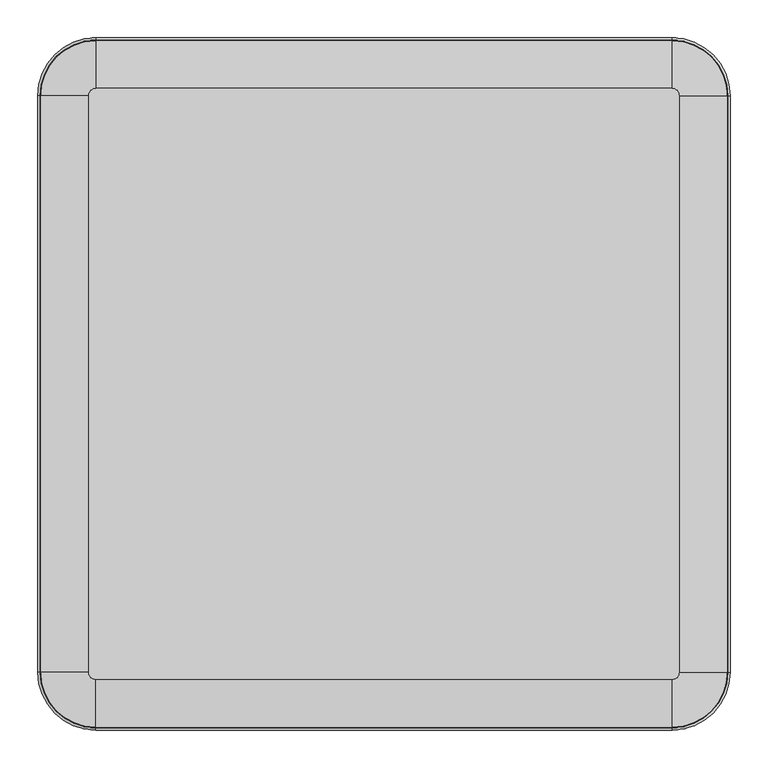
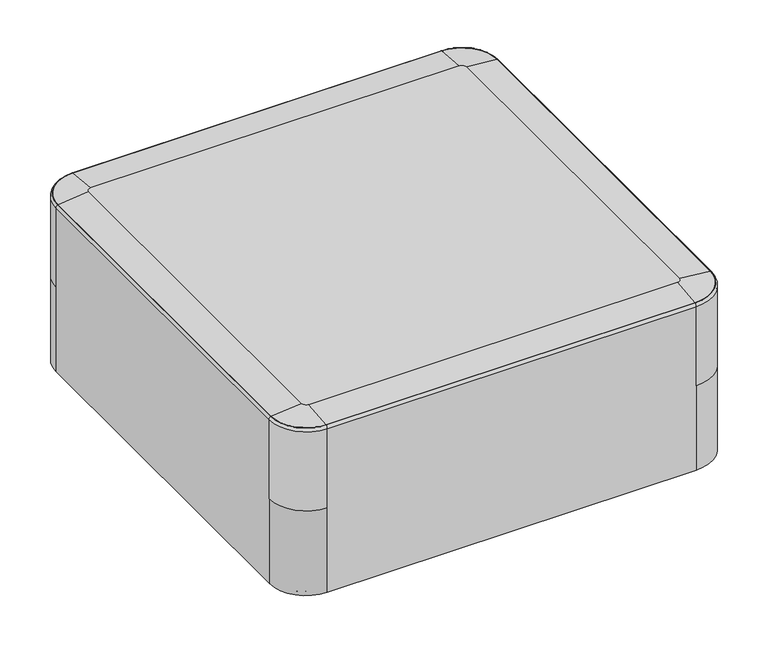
"""IFC4 building model written with IfcOpenShell, lengths in millimetres: furniture geometry, Indiana-Otty-Ottoman_Square : 840-3615SO."""

from ifc_helpers import new_model, si_unit, point, frame, origin, place, context, project, spatial, polyline, circle_curve, ellipse_curve, trimmed, source, transform, mapped, element, save
from ifc_brep_helpers import plane_surface, cylinder_surface, revolved_surface, advanced_brep


def furniture_132e7c60(model_context):
    return source(origin(), model_context, "Body", "AdvancedBrep", [
        advanced_brep(
        [(0.0, -403.225, 19.8875), (0.0, -425.725, 19.8875), (0.0, -380.725, 19.8875), (0.0, -425.2765082, 4.2458827), (0.0, -381.1734918, 4.2458827), (0.0, -420.7913665, -0.1125), (0.0, -385.6586335, -0.1125), (0.0, -413.4926178, -0.1125), (0.0, -392.9573822, -0.1125), (0.0, -409.5981417, 3.9179615), (0.0, -396.8518583, 3.9179615), (0.0, -403.225, 3.9179615)],
        [
            (0, 1),
            (1, 2, circle_curve(frame((0.0, -403.225, 19.8875), z_axis=(0.0, 0.0, 1.0), x_axis=(0.0, -1.0, 0.0)), 22.5)),
            (2, 0),
            (2, 1, circle_curve(frame((0.0, -403.225, 19.8875), z_axis=(0.0, 0.0, 1.0), x_axis=(0.0, -1.0, 0.0)), 22.5)),
            (1, 3),
            (3, 4, circle_curve(frame((0.0, -403.225, 4.2458827), z_axis=(0.0, 0.0, 1.0), x_axis=(0.0, -1.0, 0.0)), 22.0515082)),
            (4, 2),
            (4, 3, circle_curve(frame((0.0, -403.225, 4.2458827), z_axis=(0.0, 0.0, 1.0), x_axis=(0.0, -1.0, 0.0)), 22.0515082)),
            (3, 5, circle_curve(frame((0.0, -420.7913665, 4.3744851), z_axis=(1.0, 0.0, 0.0), x_axis=(0.0, 1.0, 0.0)), 4.4869851)),
            (5, 6, circle_curve(frame((0.0, -403.225, -0.1125), z_axis=(0.0, 0.0, 1.0), x_axis=(0.0, -1.0, 0.0)), 17.5663665)),
            (6, 4, circle_curve(frame((0.0, -385.6586335, 4.3744851), z_axis=(1.0, 0.0, 0.0), x_axis=(0.0, -1.0, 0.0)), 4.4869851)),
            (6, 5, circle_curve(frame((0.0, -403.225, -0.1125), z_axis=(0.0, 0.0, 1.0), x_axis=(0.0, -1.0, 0.0)), 17.5663665)),
            (5, 7),
            (7, 8, circle_curve(frame((0.0, -403.225, -0.1125), z_axis=(0.0, 0.0, 1.0), x_axis=(0.0, -1.0, 0.0)), 10.2676178)),
            (8, 6),
            (8, 7, circle_curve(frame((0.0, -403.225, -0.1125), z_axis=(0.0, 0.0, 1.0), x_axis=(0.0, -1.0, 0.0)), 10.2676178)),
            (7, 9, circle_curve(frame((0.0, -413.4926178, 3.7842702), z_axis=(1.0, 0.0, 0.0), x_axis=(0.0, 1.0, 0.0)), 3.8967702)),
            (9, 10, circle_curve(frame((0.0, -403.225, 3.9179615), z_axis=(0.0, 0.0, 1.0), x_axis=(0.0, -1.0, 0.0)), 6.3731417)),
            (10, 8, circle_curve(frame((0.0, -392.9573822, 3.7842702), z_axis=(1.0, 0.0, 0.0), x_axis=(0.0, -1.0, 0.0)), 3.8967702)),
            (10, 9, circle_curve(frame((0.0, -403.225, 3.9179615), z_axis=(0.0, 0.0, 1.0), x_axis=(0.0, -1.0, 0.0)), 6.3731417)),
            (9, 11),
            (11, 10),
        ],
        [
            plane_surface(frame((0.0, -403.225, 19.8875), z_axis=(0.0, 0.0, 1.0), x_axis=(0.0, -1.0, 0.0))),
            revolved_surface(polyline([(0.0, -425.2765082, 4.2458827), (0.0, -425.725, 19.8875)]), (0.0, -403.225, 31.0803862), (0.0, 0.0, 1.0)),
            revolved_surface(trimmed(ellipse_curve(frame((0.0, -420.7913665, 4.3744851), z_axis=(-1.0, 0.0, 0.0), x_axis=(0.0, 1.0, 0.0)), 4.4869851, 4.4869851), [point((0.0, -420.7913665, -0.1125))], [point((0.0, -425.2765082, 4.2458827))], True, "CARTESIAN"), (0.0, -403.225, 31.0803862), (0.0, 0.0, 1.0)),
            plane_surface(frame((0.0, -403.225, -0.1125), z_axis=(0.0, 0.0, -1.0), x_axis=(0.0, -1.0, 0.0))),
            revolved_surface(trimmed(ellipse_curve(frame((0.0, -413.4926178, 3.7842702), z_axis=(-1.0, 0.0, 0.0), x_axis=(0.0, 1.0, 0.0)), 3.8967702, 3.8967702), [point((0.0, -409.5981417, 3.9179615))], [point((0.0, -413.4926178, -0.1125))], True, "CARTESIAN"), (0.0, -403.225, 31.0803862), (0.0, 0.0, 1.0)),
            plane_surface(frame((0.0, -403.225, 3.9179615), z_axis=(0.0, 0.0, -1.0), x_axis=(0.0, -1.0, 0.0))),
        ],
        [
            (0, [[1, 2, 3]]),
            (0, [[-3, 4, -1]]),
            (1, [[-2, 5, 6, 7]]),
            (1, [[-4, -7, 8, -5]]),
            (2, [[-6, 9, 10, 11]]),
            (2, [[-8, -11, 12, -9]]),
            (3, [[-10, 13, 14, 15]]),
            (3, [[-12, -15, 16, -13]]),
            (4, [[-14, 17, 18, 19]]),
            (4, [[-16, -19, 20, -17]]),
            (5, [[-18, 21, 22]]),
            (5, [[-20, -22, -21]]),
        ],
    ),
        advanced_brep(
        [(0.0, 403.225, 19.8875), (0.0, 380.725, 19.8875), (0.0, 425.725, 19.8875), (0.0, 381.1734918, 4.2458827), (0.0, 425.2765082, 4.2458827), (0.0, 385.6586335, -0.1125), (0.0, 420.7913665, -0.1125), (0.0, 392.9573822, -0.1125), (0.0, 413.4926178, -0.1125), (0.0, 396.8518583, 3.9179615), (0.0, 409.5981417, 3.9179615), (0.0, 403.225, 3.9179615)],
        [
            (0, 1),
            (1, 2, circle_curve(frame((0.0, 403.225, 19.8875), z_axis=(0.0, 0.0, 1.0), x_axis=(0.0, -1.0, 0.0)), 22.5)),
            (2, 0),
            (2, 1, circle_curve(frame((0.0, 403.225, 19.8875), z_axis=(0.0, 0.0, 1.0), x_axis=(0.0, -1.0, 0.0)), 22.5)),
            (1, 3),
            (3, 4, circle_curve(frame((0.0, 403.225, 4.2458827), z_axis=(0.0, 0.0, 1.0), x_axis=(0.0, -1.0, 0.0)), 22.0515082)),
            (4, 2),
            (4, 3, circle_curve(frame((0.0, 403.225, 4.2458827), z_axis=(0.0, 0.0, 1.0), x_axis=(0.0, -1.0, 0.0)), 22.0515082)),
            (3, 5, circle_curve(frame((0.0, 385.6586335, 4.3744851), z_axis=(1.0, 0.0, 0.0), x_axis=(0.0, 1.0, 0.0)), 4.4869851)),
            (5, 6, circle_curve(frame((0.0, 403.225, -0.1125), z_axis=(0.0, 0.0, 1.0), x_axis=(0.0, -1.0, 0.0)), 17.5663665)),
            (6, 4, circle_curve(frame((0.0, 420.7913665, 4.3744851), z_axis=(1.0, 0.0, 0.0), x_axis=(0.0, -1.0, 0.0)), 4.4869851)),
            (6, 5, circle_curve(frame((0.0, 403.225, -0.1125), z_axis=(0.0, 0.0, 1.0), x_axis=(0.0, -1.0, 0.0)), 17.5663665)),
            (5, 7),
            (7, 8, circle_curve(frame((0.0, 403.225, -0.1125), z_axis=(0.0, 0.0, 1.0), x_axis=(0.0, -1.0, 0.0)), 10.2676178)),
            (8, 6),
            (8, 7, circle_curve(frame((0.0, 403.225, -0.1125), z_axis=(0.0, 0.0, 1.0), x_axis=(0.0, -1.0, 0.0)), 10.2676178)),
            (7, 9, circle_curve(frame((0.0, 392.9573822, 3.7842702), z_axis=(1.0, 0.0, 0.0), x_axis=(0.0, 1.0, 0.0)), 3.8967702)),
            (9, 10, circle_curve(frame((0.0, 403.225, 3.9179615), z_axis=(0.0, 0.0, 1.0), x_axis=(0.0, -1.0, 0.0)), 6.3731417)),
            (10, 8, circle_curve(frame((0.0, 413.4926178, 3.7842702), z_axis=(1.0, 0.0, 0.0), x_axis=(0.0, -1.0, 0.0)), 3.8967702)),
            (10, 9, circle_curve(frame((0.0, 403.225, 3.9179615), z_axis=(0.0, 0.0, 1.0), x_axis=(0.0, -1.0, 0.0)), 6.3731417)),
            (9, 11),
            (11, 10),
        ],
        [
            plane_surface(frame((0.0, 403.225, 19.8875), z_axis=(0.0, 0.0, 1.0), x_axis=(0.0, -1.0, 0.0))),
            revolved_surface(polyline([(0.0, 381.1734918, 4.2458827), (0.0, 380.725, 19.8875)]), (0.0, 403.225, 31.0803862), (0.0, 0.0, 1.0)),
            revolved_surface(trimmed(ellipse_curve(frame((0.0, 385.6586335, 4.3744851), z_axis=(-1.0, 0.0, 0.0), x_axis=(0.0, 1.0, 0.0)), 4.4869851, 4.4869851), [point((0.0, 385.6586335, -0.1125))], [point((0.0, 381.1734918, 4.2458827))], True, "CARTESIAN"), (0.0, 403.225, 31.0803862), (0.0, 0.0, 1.0)),
            plane_surface(frame((0.0, 403.225, -0.1125), z_axis=(0.0, 0.0, -1.0), x_axis=(0.0, -1.0, 0.0))),
            revolved_surface(trimmed(ellipse_curve(frame((0.0, 392.9573822, 3.7842702), z_axis=(-1.0, 0.0, 0.0), x_axis=(0.0, 1.0, 0.0)), 3.8967702, 3.8967702), [point((0.0, 396.8518583, 3.9179615))], [point((0.0, 392.9573822, -0.1125))], True, "CARTESIAN"), (0.0, 403.225, 31.0803862), (0.0, 0.0, 1.0)),
            plane_surface(frame((0.0, 403.225, 3.9179615), z_axis=(0.0, 0.0, -1.0), x_axis=(0.0, -1.0, 0.0))),
        ],
        [
            (0, [[1, 2, 3]]),
            (0, [[-3, 4, -1]]),
            (1, [[-2, 5, 6, 7]]),
            (1, [[-4, -7, 8, -5]]),
            (2, [[-6, 9, 10, 11]]),
            (2, [[-8, -11, 12, -9]]),
            (3, [[-10, 13, 14, 15]]),
            (3, [[-12, -15, 16, -13]]),
            (4, [[-14, 17, 18, 19]]),
            (4, [[-16, -19, 20, -17]]),
            (5, [[-18, 21, 22]]),
            (5, [[-20, -22, -21]]),
        ],
    ),
        advanced_brep(
        [(403.225, -403.225, 19.8875), (403.225, -425.725, 19.8875), (403.225, -380.725, 19.8875), (403.225, -425.2765082, 4.2458827), (403.225, -381.1734918, 4.2458827), (403.225, -420.7913665, -0.1125), (403.225, -385.6586335, -0.1125), (403.225, -413.4926178, -0.1125), (403.225, -392.9573822, -0.1125), (403.225, -409.5981417, 3.9179615), (403.225, -396.8518583, 3.9179615), (403.225, -403.225, 3.9179615)],
        [
            (0, 1),
            (1, 2, circle_curve(frame((403.225, -403.225, 19.8875), z_axis=(0.0, 0.0, 1.0), x_axis=(0.0, -1.0, 0.0)), 22.5)),
            (2, 0),
            (2, 1, circle_curve(frame((403.225, -403.225, 19.8875), z_axis=(0.0, 0.0, 1.0), x_axis=(0.0, -1.0, 0.0)), 22.5)),
            (1, 3),
            (3, 4, circle_curve(frame((403.225, -403.225, 4.2458827), z_axis=(0.0, 0.0, 1.0), x_axis=(0.0, -1.0, 0.0)), 22.0515082)),
            (4, 2),
            (4, 3, circle_curve(frame((403.225, -403.225, 4.2458827), z_axis=(0.0, 0.0, 1.0), x_axis=(0.0, -1.0, 0.0)), 22.0515082)),
            (3, 5, circle_curve(frame((403.225, -420.7913665, 4.3744851), z_axis=(1.0, 0.0, 0.0), x_axis=(0.0, 1.0, 0.0)), 4.4869851)),
            (5, 6, circle_curve(frame((403.225, -403.225, -0.1125), z_axis=(0.0, 0.0, 1.0), x_axis=(0.0, -1.0, 0.0)), 17.5663665)),
            (6, 4, circle_curve(frame((403.225, -385.6586335, 4.3744851), z_axis=(1.0, 0.0, 0.0), x_axis=(0.0, -1.0, 0.0)), 4.4869851)),
            (6, 5, circle_curve(frame((403.225, -403.225, -0.1125), z_axis=(0.0, 0.0, 1.0), x_axis=(0.0, -1.0, 0.0)), 17.5663665)),
            (5, 7),
            (7, 8, circle_curve(frame((403.225, -403.225, -0.1125), z_axis=(0.0, 0.0, 1.0), x_axis=(0.0, -1.0, 0.0)), 10.2676178)),
            (8, 6),
            (8, 7, circle_curve(frame((403.225, -403.225, -0.1125), z_axis=(0.0, 0.0, 1.0), x_axis=(0.0, -1.0, 0.0)), 10.2676178)),
            (7, 9, circle_curve(frame((403.225, -413.4926178, 3.7842702), z_axis=(1.0, 0.0, 0.0), x_axis=(0.0, 1.0, 0.0)), 3.8967702)),
            (9, 10, circle_curve(frame((403.225, -403.225, 3.9179615), z_axis=(0.0, 0.0, 1.0), x_axis=(0.0, -1.0, 0.0)), 6.3731417)),
            (10, 8, circle_curve(frame((403.225, -392.9573822, 3.7842702), z_axis=(1.0, 0.0, 0.0), x_axis=(0.0, -1.0, 0.0)), 3.8967702)),
            (10, 9, circle_curve(frame((403.225, -403.225, 3.9179615), z_axis=(0.0, 0.0, 1.0), x_axis=(0.0, -1.0, 0.0)), 6.3731417)),
            (9, 11),
            (11, 10),
        ],
        [
            plane_surface(frame((403.225, -403.225, 19.8875), z_axis=(0.0, 0.0, 1.0), x_axis=(0.0, -1.0, 0.0))),
            revolved_surface(polyline([(403.225, -425.2765082, 4.2458827), (403.225, -425.725, 19.8875)]), (403.225, -403.225, 31.0803862), (0.0, 0.0, 1.0)),
            revolved_surface(trimmed(ellipse_curve(frame((403.225, -420.7913665, 4.3744851), z_axis=(-1.0, 0.0, 0.0), x_axis=(0.0, 1.0, 0.0)), 4.4869851, 4.4869851), [point((403.225, -420.7913665, -0.1125))], [point((403.225, -425.2765082, 4.2458827))], True, "CARTESIAN"), (403.225, -403.225, 31.0803862), (0.0, 0.0, 1.0)),
            plane_surface(frame((403.225, -403.225, -0.1125), z_axis=(0.0, 0.0, -1.0), x_axis=(0.0, -1.0, 0.0))),
            revolved_surface(trimmed(ellipse_curve(frame((403.225, -413.4926178, 3.7842702), z_axis=(-1.0, 0.0, 0.0), x_axis=(0.0, 1.0, 0.0)), 3.8967702, 3.8967702), [point((403.225, -409.5981417, 3.9179615))], [point((403.225, -413.4926178, -0.1125))], True, "CARTESIAN"), (403.225, -403.225, 31.0803862), (0.0, 0.0, 1.0)),
            plane_surface(frame((403.225, -403.225, 3.9179615), z_axis=(0.0, 0.0, -1.0), x_axis=(0.0, -1.0, 0.0))),
        ],
        [
            (0, [[1, 2, 3]]),
            (0, [[-3, 4, -1]]),
            (1, [[-2, 5, 6, 7]]),
            (1, [[-4, -7, 8, -5]]),
            (2, [[-6, 9, 10, 11]]),
            (2, [[-8, -11, 12, -9]]),
            (3, [[-10, 13, 14, 15]]),
            (3, [[-12, -15, 16, -13]]),
            (4, [[-14, 17, 18, 19]]),
            (4, [[-16, -19, 20, -17]]),
            (5, [[-18, 21, 22]]),
            (5, [[-20, -22, -21]]),
        ],
    ),
        advanced_brep(
        [(403.225, 403.225, 19.8875), (403.225, 380.725, 19.8875), (403.225, 425.725, 19.8875), (403.225, 381.1734918, 4.2458827), (403.225, 425.2765082, 4.2458827), (403.225, 385.6586335, -0.1125), (403.225, 420.7913665, -0.1125), (403.225, 392.9573822, -0.1125), (403.225, 413.4926178, -0.1125), (403.225, 396.8518583, 3.9179615), (403.225, 409.5981417, 3.9179615), (403.225, 403.225, 3.9179615)],
        [
            (0, 1),
            (1, 2, circle_curve(frame((403.225, 403.225, 19.8875), z_axis=(0.0, 0.0, 1.0), x_axis=(0.0, -1.0, 0.0)), 22.5)),
            (2, 0),
            (2, 1, circle_curve(frame((403.225, 403.225, 19.8875), z_axis=(0.0, 0.0, 1.0), x_axis=(0.0, -1.0, 0.0)), 22.5)),
            (1, 3),
            (3, 4, circle_curve(frame((403.225, 403.225, 4.2458827), z_axis=(0.0, 0.0, 1.0), x_axis=(0.0, -1.0, 0.0)), 22.0515082)),
            (4, 2),
            (4, 3, circle_curve(frame((403.225, 403.225, 4.2458827), z_axis=(0.0, 0.0, 1.0), x_axis=(0.0, -1.0, 0.0)), 22.0515082)),
            (3, 5, circle_curve(frame((403.225, 385.6586335, 4.3744851), z_axis=(1.0, 0.0, 0.0), x_axis=(0.0, 1.0, 0.0)), 4.4869851)),
            (5, 6, circle_curve(frame((403.225, 403.225, -0.1125), z_axis=(0.0, 0.0, 1.0), x_axis=(0.0, -1.0, 0.0)), 17.5663665)),
            (6, 4, circle_curve(frame((403.225, 420.7913665, 4.3744851), z_axis=(1.0, 0.0, 0.0), x_axis=(0.0, -1.0, 0.0)), 4.4869851)),
            (6, 5, circle_curve(frame((403.225, 403.225, -0.1125), z_axis=(0.0, 0.0, 1.0), x_axis=(0.0, -1.0, 0.0)), 17.5663665)),
            (5, 7),
            (7, 8, circle_curve(frame((403.225, 403.225, -0.1125), z_axis=(0.0, 0.0, 1.0), x_axis=(0.0, -1.0, 0.0)), 10.2676178)),
            (8, 6),
            (8, 7, circle_curve(frame((403.225, 403.225, -0.1125), z_axis=(0.0, 0.0, 1.0), x_axis=(0.0, -1.0, 0.0)), 10.2676178)),
            (7, 9, circle_curve(frame((403.225, 392.9573822, 3.7842702), z_axis=(1.0, 0.0, 0.0), x_axis=(0.0, 1.0, 0.0)), 3.8967702)),
            (9, 10, circle_curve(frame((403.225, 403.225, 3.9179615), z_axis=(0.0, 0.0, 1.0), x_axis=(0.0, -1.0, 0.0)), 6.3731417)),
            (10, 8, circle_curve(frame((403.225, 413.4926178, 3.7842702), z_axis=(1.0, 0.0, 0.0), x_axis=(0.0, -1.0, 0.0)), 3.8967702)),
            (10, 9, circle_curve(frame((403.225, 403.225, 3.9179615), z_axis=(0.0, 0.0, 1.0), x_axis=(0.0, -1.0, 0.0)), 6.3731417)),
            (9, 11),
            (11, 10),
        ],
        [
            plane_surface(frame((403.225, 403.225, 19.8875), z_axis=(0.0, 0.0, 1.0), x_axis=(0.0, -1.0, 0.0))),
            revolved_surface(polyline([(403.225, 381.1734918, 4.2458827), (403.225, 380.725, 19.8875)]), (403.225, 403.225, 31.0803862), (0.0, 0.0, 1.0)),
            revolved_surface(trimmed(ellipse_curve(frame((403.225, 385.6586335, 4.3744851), z_axis=(-1.0, 0.0, 0.0), x_axis=(0.0, 1.0, 0.0)), 4.4869851, 4.4869851), [point((403.225, 385.6586335, -0.1125))], [point((403.225, 381.1734918, 4.2458827))], True, "CARTESIAN"), (403.225, 403.225, 31.0803862), (0.0, 0.0, 1.0)),
            plane_surface(frame((403.225, 403.225, -0.1125), z_axis=(0.0, 0.0, -1.0), x_axis=(0.0, -1.0, 0.0))),
            revolved_surface(trimmed(ellipse_curve(frame((403.225, 392.9573822, 3.7842702), z_axis=(-1.0, 0.0, 0.0), x_axis=(0.0, 1.0, 0.0)), 3.8967702, 3.8967702), [point((403.225, 396.8518583, 3.9179615))], [point((403.225, 392.9573822, -0.1125))], True, "CARTESIAN"), (403.225, 403.225, 31.0803862), (0.0, 0.0, 1.0)),
            plane_surface(frame((403.225, 403.225, 3.9179615), z_axis=(0.0, 0.0, -1.0), x_axis=(0.0, -1.0, 0.0))),
        ],
        [
            (0, [[1, 2, 3]]),
            (0, [[-3, 4, -1]]),
            (1, [[-2, 5, 6, 7]]),
            (1, [[-4, -7, 8, -5]]),
            (2, [[-6, 9, 10, 11]]),
            (2, [[-8, -11, 12, -9]]),
            (3, [[-10, 13, 14, 15]]),
            (3, [[-12, -15, 16, -13]]),
            (4, [[-14, 17, 18, 19]]),
            (4, [[-16, -19, 20, -17]]),
            (5, [[-18, 21, 22]]),
            (5, [[-20, -22, -21]]),
        ],
    ),
        advanced_brep(
        [(-403.225, -403.225, 19.8875), (-403.225, -425.725, 19.8875), (-403.225, -380.725, 19.8875), (-403.225, -425.2765082, 4.2458827), (-403.225, -381.1734918, 4.2458827), (-403.225, -420.7913665, -0.1125), (-403.225, -385.6586335, -0.1125), (-403.225, -413.4926178, -0.1125), (-403.225, -392.9573822, -0.1125), (-403.225, -409.5981417, 3.9179615), (-403.225, -396.8518583, 3.9179615), (-403.225, -403.225, 3.9179615)],
        [
            (0, 1),
            (1, 2, circle_curve(frame((-403.225, -403.225, 19.8875), z_axis=(0.0, 0.0, 1.0), x_axis=(0.0, -1.0, 0.0)), 22.5)),
            (2, 0),
            (2, 1, circle_curve(frame((-403.225, -403.225, 19.8875), z_axis=(0.0, 0.0, 1.0), x_axis=(0.0, -1.0, 0.0)), 22.5)),
            (1, 3),
            (3, 4, circle_curve(frame((-403.225, -403.225, 4.2458827), z_axis=(0.0, 0.0, 1.0), x_axis=(0.0, -1.0, 0.0)), 22.0515082)),
            (4, 2),
            (4, 3, circle_curve(frame((-403.225, -403.225, 4.2458827), z_axis=(0.0, 0.0, 1.0), x_axis=(0.0, -1.0, 0.0)), 22.0515082)),
            (3, 5, circle_curve(frame((-403.225, -420.7913665, 4.3744851), z_axis=(1.0, 0.0, 0.0), x_axis=(0.0, 1.0, 0.0)), 4.4869851)),
            (5, 6, circle_curve(frame((-403.225, -403.225, -0.1125), z_axis=(0.0, 0.0, 1.0), x_axis=(0.0, -1.0, 0.0)), 17.5663665)),
            (6, 4, circle_curve(frame((-403.225, -385.6586335, 4.3744851), z_axis=(1.0, 0.0, 0.0), x_axis=(0.0, -1.0, 0.0)), 4.4869851)),
            (6, 5, circle_curve(frame((-403.225, -403.225, -0.1125), z_axis=(0.0, 0.0, 1.0), x_axis=(0.0, -1.0, 0.0)), 17.5663665)),
            (5, 7),
            (7, 8, circle_curve(frame((-403.225, -403.225, -0.1125), z_axis=(0.0, 0.0, 1.0), x_axis=(0.0, -1.0, 0.0)), 10.2676178)),
            (8, 6),
            (8, 7, circle_curve(frame((-403.225, -403.225, -0.1125), z_axis=(0.0, 0.0, 1.0), x_axis=(0.0, -1.0, 0.0)), 10.2676178)),
            (7, 9, circle_curve(frame((-403.225, -413.4926178, 3.7842702), z_axis=(1.0, 0.0, 0.0), x_axis=(0.0, 1.0, 0.0)), 3.8967702)),
            (9, 10, circle_curve(frame((-403.225, -403.225, 3.9179615), z_axis=(0.0, 0.0, 1.0), x_axis=(0.0, -1.0, 0.0)), 6.3731417)),
            (10, 8, circle_curve(frame((-403.225, -392.9573822, 3.7842702), z_axis=(1.0, 0.0, 0.0), x_axis=(0.0, -1.0, 0.0)), 3.8967702)),
            (10, 9, circle_curve(frame((-403.225, -403.225, 3.9179615), z_axis=(0.0, 0.0, 1.0), x_axis=(0.0, -1.0, 0.0)), 6.3731417)),
            (9, 11),
            (11, 10),
        ],
        [
            plane_surface(frame((-403.225, -403.225, 19.8875), z_axis=(0.0, 0.0, 1.0), x_axis=(0.0, -1.0, 0.0))),
            revolved_surface(polyline([(-403.225, -425.2765082, 4.2458827), (-403.225, -425.725, 19.8875)]), (-403.225, -403.225, 31.0803862), (0.0, 0.0, 1.0)),
            revolved_surface(trimmed(ellipse_curve(frame((-403.225, -420.7913665, 4.3744851), z_axis=(-1.0, 0.0, 0.0), x_axis=(0.0, 1.0, 0.0)), 4.4869851, 4.4869851), [point((-403.225, -420.7913665, -0.1125))], [point((-403.225, -425.2765082, 4.2458827))], True, "CARTESIAN"), (-403.225, -403.225, 31.0803862), (0.0, 0.0, 1.0)),
            plane_surface(frame((-403.225, -403.225, -0.1125), z_axis=(0.0, 0.0, -1.0), x_axis=(0.0, -1.0, 0.0))),
            revolved_surface(trimmed(ellipse_curve(frame((-403.225, -413.4926178, 3.7842702), z_axis=(-1.0, 0.0, 0.0), x_axis=(0.0, 1.0, 0.0)), 3.8967702, 3.8967702), [point((-403.225, -409.5981417, 3.9179615))], [point((-403.225, -413.4926178, -0.1125))], True, "CARTESIAN"), (-403.225, -403.225, 31.0803862), (0.0, 0.0, 1.0)),
            plane_surface(frame((-403.225, -403.225, 3.9179615), z_axis=(0.0, 0.0, -1.0), x_axis=(0.0, -1.0, 0.0))),
        ],
        [
            (0, [[1, 2, 3]]),
            (0, [[-3, 4, -1]]),
            (1, [[-2, 5, 6, 7]]),
            (1, [[-4, -7, 8, -5]]),
            (2, [[-6, 9, 10, 11]]),
            (2, [[-8, -11, 12, -9]]),
            (3, [[-10, 13, 14, 15]]),
            (3, [[-12, -15, 16, -13]]),
            (4, [[-14, 17, 18, 19]]),
            (4, [[-16, -19, 20, -17]]),
            (5, [[-18, 21, 22]]),
            (5, [[-20, -22, -21]]),
        ],
    ),
        advanced_brep(
        [(-403.225, 403.225, 19.8875), (-403.225, 380.725, 19.8875), (-403.225, 425.725, 19.8875), (-403.225, 381.1734918, 4.2458827), (-403.225, 425.2765082, 4.2458827), (-403.225, 385.6586335, -0.1125), (-403.225, 420.7913665, -0.1125), (-403.225, 392.9573822, -0.1125), (-403.225, 413.4926178, -0.1125), (-403.225, 396.8518583, 3.9179615), (-403.225, 409.5981417, 3.9179615), (-403.225, 403.225, 3.9179615)],
        [
            (0, 1),
            (1, 2, circle_curve(frame((-403.225, 403.225, 19.8875), z_axis=(0.0, 0.0, 1.0), x_axis=(0.0, -1.0, 0.0)), 22.5)),
            (2, 0),
            (2, 1, circle_curve(frame((-403.225, 403.225, 19.8875), z_axis=(0.0, 0.0, 1.0), x_axis=(0.0, -1.0, 0.0)), 22.5)),
            (1, 3),
            (3, 4, circle_curve(frame((-403.225, 403.225, 4.2458827), z_axis=(0.0, 0.0, 1.0), x_axis=(0.0, -1.0, 0.0)), 22.0515082)),
            (4, 2),
            (4, 3, circle_curve(frame((-403.225, 403.225, 4.2458827), z_axis=(0.0, 0.0, 1.0), x_axis=(0.0, -1.0, 0.0)), 22.0515082)),
            (3, 5, circle_curve(frame((-403.225, 385.6586335, 4.3744851), z_axis=(1.0, 0.0, 0.0), x_axis=(0.0, 1.0, 0.0)), 4.4869851)),
            (5, 6, circle_curve(frame((-403.225, 403.225, -0.1125), z_axis=(0.0, 0.0, 1.0), x_axis=(0.0, -1.0, 0.0)), 17.5663665)),
            (6, 4, circle_curve(frame((-403.225, 420.7913665, 4.3744851), z_axis=(1.0, 0.0, 0.0), x_axis=(0.0, -1.0, 0.0)), 4.4869851)),
            (6, 5, circle_curve(frame((-403.225, 403.225, -0.1125), z_axis=(0.0, 0.0, 1.0), x_axis=(0.0, -1.0, 0.0)), 17.5663665)),
            (5, 7),
            (7, 8, circle_curve(frame((-403.225, 403.225, -0.1125), z_axis=(0.0, 0.0, 1.0), x_axis=(0.0, -1.0, 0.0)), 10.2676178)),
            (8, 6),
            (8, 7, circle_curve(frame((-403.225, 403.225, -0.1125), z_axis=(0.0, 0.0, 1.0), x_axis=(0.0, -1.0, 0.0)), 10.2676178)),
            (7, 9, circle_curve(frame((-403.225, 392.9573822, 3.7842702), z_axis=(1.0, 0.0, 0.0), x_axis=(0.0, 1.0, 0.0)), 3.8967702)),
            (9, 10, circle_curve(frame((-403.225, 403.225, 3.9179615), z_axis=(0.0, 0.0, 1.0), x_axis=(0.0, -1.0, 0.0)), 6.3731417)),
            (10, 8, circle_curve(frame((-403.225, 413.4926178, 3.7842702), z_axis=(1.0, 0.0, 0.0), x_axis=(0.0, -1.0, 0.0)), 3.8967702)),
            (10, 9, circle_curve(frame((-403.225, 403.225, 3.9179615), z_axis=(0.0, 0.0, 1.0), x_axis=(0.0, -1.0, 0.0)), 6.3731417)),
            (9, 11),
            (11, 10),
        ],
        [
            plane_surface(frame((-403.225, 403.225, 19.8875), z_axis=(0.0, 0.0, 1.0), x_axis=(0.0, -1.0, 0.0))),
            revolved_surface(polyline([(-403.225, 381.1734918, 4.2458827), (-403.225, 380.725, 19.8875)]), (-403.225, 403.225, 31.0803862), (0.0, 0.0, 1.0)),
            revolved_surface(trimmed(ellipse_curve(frame((-403.225, 385.6586335, 4.3744851), z_axis=(-1.0, 0.0, 0.0), x_axis=(0.0, 1.0, 0.0)), 4.4869851, 4.4869851), [point((-403.225, 385.6586335, -0.1125))], [point((-403.225, 381.1734918, 4.2458827))], True, "CARTESIAN"), (-403.225, 403.225, 31.0803862), (0.0, 0.0, 1.0)),
            plane_surface(frame((-403.225, 403.225, -0.1125), z_axis=(0.0, 0.0, -1.0), x_axis=(0.0, -1.0, 0.0))),
            revolved_surface(trimmed(ellipse_curve(frame((-403.225, 392.9573822, 3.7842702), z_axis=(-1.0, 0.0, 0.0), x_axis=(0.0, 1.0, 0.0)), 3.8967702, 3.8967702), [point((-403.225, 396.8518583, 3.9179615))], [point((-403.225, 392.9573822, -0.1125))], True, "CARTESIAN"), (-403.225, 403.225, 31.0803862), (0.0, 0.0, 1.0)),
            plane_surface(frame((-403.225, 403.225, 3.9179615), z_axis=(0.0, 0.0, -1.0), x_axis=(0.0, -1.0, 0.0))),
        ],
        [
            (0, [[1, 2, 3]]),
            (0, [[-3, 4, -1]]),
            (1, [[-2, 5, 6, 7]]),
            (1, [[-4, -7, 8, -5]]),
            (2, [[-6, 9, 10, 11]]),
            (2, [[-8, -11, 12, -9]]),
            (3, [[-10, 13, 14, 15]]),
            (3, [[-12, -15, 16, -13]]),
            (4, [[-14, 17, 18, 19]]),
            (4, [[-16, -19, 20, -17]]),
            (5, [[-18, 21, 22]]),
            (5, [[-20, -22, -21]]),
        ],
    ),
        advanced_brep(
        [(453.2, 381.0, 374.9999966), (381.0, 453.2, 374.9999966), (381.0, 390.525, 381.0), (390.525, 381.0, 381.0), (453.9317905, 381.0, 375.2073863), (381.0, 453.9317905, 375.2073863), (457.2, 381.0, 369.0), (381.0, 457.2, 369.0), (457.2, 381.0, 196.25), (381.0, 457.2, 196.25), (390.525, -381.0, 381.0), (453.2, -381.0, 374.9999966), (453.9317905, -381.0, 375.2073863), (457.2, -381.0, 369.0), (457.2, -381.0, 196.25), (457.2, -381.0, 11.5), (457.2, 381.0, 11.5), (381.0, -390.525, 381.0), (381.0, -453.2, 374.9999966), (381.0, -453.9317905, 375.2073863), (381.0, -457.2, 369.0), (381.0, -457.2, 196.25), (-381.0, -390.525, 381.0), (-381.0, -453.2, 374.9999966), (-381.0, -453.9317905, 375.2073863), (-381.0, -457.2, 369.0), (-381.0, -457.2, 196.25), (-381.0, -457.2, 11.5), (381.0, -457.2, 11.5), (-390.525, -381.0, 381.0), (-453.2, -381.0, 374.9999966), (-453.9317905, -381.0, 375.2073863), (-457.2, -381.0, 369.0), (-457.2, -381.0, 196.25), (-390.525, 381.0, 381.0), (-453.2, 381.0, 374.9999966), (-453.9317905, 381.0, 375.2073863), (-457.2, 381.0, 369.0), (-457.2, 381.0, 196.25), (-457.2, 381.0, 11.5), (-457.2, -381.0, 11.5), (-381.0, 390.525, 381.0), (-381.0, 453.2, 374.9999966), (-381.0, 453.9317905, 375.2073863), (-381.0, 457.2, 369.0), (-381.0, 457.2, 196.25), (381.0, 457.2, 11.5), (-381.0, 457.2, 11.5), (-426.24375, -403.225, 11.5), (-380.20625, -403.225, 11.5), (-426.24375, 403.225, 11.5), (-380.20625, 403.225, 11.5), (380.20625, 403.225, 11.5), (426.24375, 403.225, 11.5), (380.20625, -403.225, 11.5), (426.24375, -403.225, 11.5), (-23.01875, 403.225, 11.5), (23.01875, 403.225, 11.5), (-23.01875, -403.225, 11.5), (23.01875, -403.225, 11.5), (-380.20625, -403.225, 19.834375), (-426.24375, -403.225, 19.834375), (-380.20625, 403.225, 19.834375), (-426.24375, 403.225, 19.834375), (380.20625, 403.225, 19.834375), (426.24375, 403.225, 19.834375), (380.20625, -403.225, 19.834375), (426.24375, -403.225, 19.834375), (-23.01875, 403.225, 19.834375), (23.01875, 403.225, 19.834375), (-23.01875, -403.225, 19.834375), (23.01875, -403.225, 19.834375)],
        [
            (0, 1, circle_curve(frame((381.0, 381.0, 374.9999966), z_axis=(0.0, 0.0, 1.0), x_axis=(0.0, 1.0, 0.0)), 72.2)),
            (1, 2, circle_curve(frame((381.0, 390.525, 50.6538794), z_axis=(1.0, 0.0, 0.0), x_axis=(0.0, 1.0, 0.0)), 330.3461206)),
            (2, 3, circle_curve(frame((381.0, 381.0, 381.0), z_axis=(0.0, 0.0, -1.0), x_axis=(0.0, 1.0, 0.0)), 9.525)),
            (3, 0, circle_curve(frame((390.525, 381.0, 50.6538794), z_axis=(0.0, 1.0, 0.0), x_axis=(1.0, 0.0, 0.0)), 330.3461206)),
            (0, 4, circle_curve(frame((453.6520185, 381.0, 374.799799), z_axis=(0.0, 1.0, 0.0), x_axis=(1.0, 0.0, 0.0)), 0.4943681)),
            (4, 5, circle_curve(frame((381.0, 381.0, 375.2073863), z_axis=(0.0, 0.0, 1.0), x_axis=(0.0, 1.0, 0.0)), 72.9317905)),
            (5, 1, circle_curve(frame((381.0, 453.6520185, 374.799799), z_axis=(1.0, 0.0, 0.0), x_axis=(0.0, 1.0, 0.0)), 0.4943681)),
            (4, 6, circle_curve(frame((449.6709786, 381.0, 369.0), z_axis=(0.0, 1.0, 0.0), x_axis=(1.0, 0.0, 0.0)), 7.5290214)),
            (6, 7, circle_curve(frame((381.0, 381.0, 369.0), z_axis=(0.0, 0.0, 1.0), x_axis=(0.0, 1.0, 0.0)), 76.2)),
            (7, 5, circle_curve(frame((381.0, 449.6709786, 369.0), z_axis=(1.0, 0.0, 0.0), x_axis=(0.0, 1.0, 0.0)), 7.5290214)),
            (6, 8),
            (8, 9, circle_curve(frame((381.0, 381.0, 196.25), z_axis=(0.0, 0.0, 1.0), x_axis=(0.0, 1.0, 0.0)), 76.2)),
            (9, 7),
            (3, 10),
            (10, 11, circle_curve(frame((390.525, -381.0, 50.6538794), z_axis=(0.0, 1.0, 0.0), x_axis=(1.0, 0.0, 0.0)), 330.3461206)),
            (11, 0),
            (11, 12, circle_curve(frame((453.6520185, -381.0, 374.799799), z_axis=(0.0, 1.0, 0.0), x_axis=(1.0, 0.0, 0.0)), 0.4943681)),
            (12, 4),
            (12, 13, circle_curve(frame((449.6709786, -381.0, 369.0), z_axis=(0.0, 1.0, 0.0), x_axis=(1.0, 0.0, 0.0)), 7.5290214)),
            (13, 6),
            (13, 14),
            (14, 15),
            (15, 16),
            (16, 8),
            (10, 17, circle_curve(frame((381.0, -381.0, 381.0), z_axis=(0.0, 0.0, -1.0), x_axis=(1.0, 0.0, 0.0)), 9.525)),
            (17, 18, circle_curve(frame((381.0, -390.525, 50.6538794), z_axis=(1.0, 0.0, 0.0), x_axis=(0.0, -1.0, 0.0)), 330.3461206)),
            (18, 11, circle_curve(frame((381.0, -381.0, 374.9999966), z_axis=(0.0, 0.0, 1.0), x_axis=(1.0, 0.0, 0.0)), 72.2)),
            (18, 19, circle_curve(frame((381.0, -453.6520185, 374.799799), z_axis=(1.0, 0.0, 0.0), x_axis=(0.0, -1.0, 0.0)), 0.4943681)),
            (19, 12, circle_curve(frame((381.0, -381.0, 375.2073863), z_axis=(0.0, 0.0, 1.0), x_axis=(1.0, 0.0, 0.0)), 72.9317905)),
            (19, 20, circle_curve(frame((381.0, -449.6709786, 369.0), z_axis=(1.0, 0.0, 0.0), x_axis=(0.0, -1.0, 0.0)), 7.5290214)),
            (20, 13, circle_curve(frame((381.0, -381.0, 369.0), z_axis=(0.0, 0.0, 1.0), x_axis=(1.0, 0.0, 0.0)), 76.2)),
            (20, 21),
            (21, 14, circle_curve(frame((381.0, -381.0, 196.25), z_axis=(0.0, 0.0, 1.0), x_axis=(1.0, 0.0, 0.0)), 76.2)),
            (17, 22),
            (22, 23, circle_curve(frame((-381.0, -390.525, 50.6538794), z_axis=(1.0, 0.0, 0.0), x_axis=(0.0, -1.0, 0.0)), 330.3461206)),
            (23, 18),
            (23, 24, circle_curve(frame((-381.0, -453.6520185, 374.799799), z_axis=(1.0, 0.0, 0.0), x_axis=(0.0, -1.0, 0.0)), 0.4943681)),
            (24, 19),
            (24, 25, circle_curve(frame((-381.0, -449.6709786, 369.0), z_axis=(1.0, 0.0, 0.0), x_axis=(0.0, -1.0, 0.0)), 7.5290214)),
            (25, 20),
            (25, 26),
            (26, 27),
            (27, 28),
            (28, 21),
            (22, 29, circle_curve(frame((-381.0, -381.0, 381.0), z_axis=(0.0, 0.0, -1.0), x_axis=(0.0, -1.0, 0.0)), 9.525)),
            (29, 30, circle_curve(frame((-390.525, -381.0, 50.6538794), z_axis=(0.0, -1.0, 0.0), x_axis=(-1.0, 0.0, 0.0)), 330.3461206)),
            (30, 23, circle_curve(frame((-381.0, -381.0, 374.9999966), z_axis=(0.0, 0.0, 1.0), x_axis=(0.0, -1.0, 0.0)), 72.2)),
            (30, 31, circle_curve(frame((-453.6520185, -381.0, 374.799799), z_axis=(0.0, -1.0, 0.0), x_axis=(-1.0, 0.0, 0.0)), 0.4943681)),
            (31, 24, circle_curve(frame((-381.0, -381.0, 375.2073863), z_axis=(0.0, 0.0, 1.0), x_axis=(0.0, -1.0, 0.0)), 72.9317905)),
            (31, 32, circle_curve(frame((-449.6709786, -381.0, 369.0), z_axis=(0.0, -1.0, 0.0), x_axis=(-1.0, 0.0, 0.0)), 7.5290214)),
            (32, 25, circle_curve(frame((-381.0, -381.0, 369.0), z_axis=(0.0, 0.0, 1.0), x_axis=(0.0, -1.0, 0.0)), 76.2)),
            (32, 33),
            (33, 26, circle_curve(frame((-381.0, -381.0, 196.25), z_axis=(0.0, 0.0, 1.0), x_axis=(0.0, -1.0, 0.0)), 76.2)),
            (29, 34),
            (34, 35, circle_curve(frame((-390.525, 381.0, 50.6538794), z_axis=(0.0, -1.0, 0.0), x_axis=(-1.0, 0.0, 0.0)), 330.3461206)),
            (35, 30),
            (35, 36, circle_curve(frame((-453.6520185, 381.0, 374.799799), z_axis=(0.0, -1.0, 0.0), x_axis=(-1.0, 0.0, 0.0)), 0.4943681)),
            (36, 31),
            (36, 37, circle_curve(frame((-449.6709786, 381.0, 369.0), z_axis=(0.0, -1.0, 0.0), x_axis=(-1.0, 0.0, 0.0)), 7.5290214)),
            (37, 32),
            (37, 38),
            (38, 39),
            (39, 40),
            (40, 33),
            (34, 41, circle_curve(frame((-381.0, 381.0, 381.0), z_axis=(0.0, 0.0, -1.0), x_axis=(-1.0, 0.0, 0.0)), 9.525)),
            (41, 42, circle_curve(frame((-381.0, 390.525, 50.6538794), z_axis=(-1.0, 0.0, 0.0), x_axis=(0.0, 1.0, 0.0)), 330.3461206)),
            (42, 35, circle_curve(frame((-381.0, 381.0, 374.9999966), z_axis=(0.0, 0.0, 1.0), x_axis=(-1.0, 0.0, 0.0)), 72.2)),
            (42, 43, circle_curve(frame((-381.0, 453.6520185, 374.799799), z_axis=(-1.0, 0.0, 0.0), x_axis=(0.0, 1.0, 0.0)), 0.4943681)),
            (43, 36, circle_curve(frame((-381.0, 381.0, 375.2073863), z_axis=(0.0, 0.0, 1.0), x_axis=(-1.0, 0.0, 0.0)), 72.9317905)),
            (43, 44, circle_curve(frame((-381.0, 449.6709786, 369.0), z_axis=(-1.0, 0.0, 0.0), x_axis=(0.0, 1.0, 0.0)), 7.5290214)),
            (44, 37, circle_curve(frame((-381.0, 381.0, 369.0), z_axis=(0.0, 0.0, 1.0), x_axis=(-1.0, 0.0, 0.0)), 76.2)),
            (44, 45),
            (45, 38, circle_curve(frame((-381.0, 381.0, 196.25), z_axis=(0.0, 0.0, 1.0), x_axis=(-1.0, 0.0, 0.0)), 76.2)),
            (2, 41),
            (1, 42),
            (5, 43),
            (7, 44),
            (9, 46),
            (46, 47),
            (47, 45),
            (46, 16, circle_curve(frame((381.0, 381.0, 11.5), z_axis=(0.0, 0.0, -1.0), x_axis=(1.0, 0.0, 0.0)), 76.2)),
            (15, 28, circle_curve(frame((381.0, -381.0, 11.5), z_axis=(0.0, 0.0, -1.0), x_axis=(1.0, 0.0, 0.0)), 76.2)),
            (27, 40, circle_curve(frame((-381.0, -381.0, 11.5), z_axis=(0.0, 0.0, -1.0), x_axis=(1.0, 0.0, 0.0)), 76.2)),
            (39, 47, circle_curve(frame((-381.0, 381.0, 11.5), z_axis=(0.0, 0.0, -1.0), x_axis=(1.0, 0.0, 0.0)), 76.2)),
            (48, 49, circle_curve(frame((-403.225, -403.225, 11.5), z_axis=(0.0, 0.0, 1.0), x_axis=(-1.0, 0.0, 0.0)), 23.01875)),
            (49, 48, circle_curve(frame((-403.225, -403.225, 11.5), z_axis=(0.0, 0.0, 1.0), x_axis=(-1.0, 0.0, 0.0)), 23.01875)),
            (50, 51, circle_curve(frame((-403.225, 403.225, 11.5), z_axis=(0.0, 0.0, 1.0), x_axis=(-1.0, 0.0, 0.0)), 23.01875)),
            (51, 50, circle_curve(frame((-403.225, 403.225, 11.5), z_axis=(0.0, 0.0, 1.0), x_axis=(-1.0, 0.0, 0.0)), 23.01875)),
            (52, 53, circle_curve(frame((403.225, 403.225, 11.5), z_axis=(0.0, 0.0, 1.0), x_axis=(-1.0, 0.0, 0.0)), 23.01875)),
            (53, 52, circle_curve(frame((403.225, 403.225, 11.5), z_axis=(0.0, 0.0, 1.0), x_axis=(-1.0, 0.0, 0.0)), 23.01875)),
            (54, 55, circle_curve(frame((403.225, -403.225, 11.5), z_axis=(0.0, 0.0, 1.0), x_axis=(-1.0, 0.0, 0.0)), 23.01875)),
            (55, 54, circle_curve(frame((403.225, -403.225, 11.5), z_axis=(0.0, 0.0, 1.0), x_axis=(-1.0, 0.0, 0.0)), 23.01875)),
            (56, 57, circle_curve(frame((0.0, 403.225, 11.5), z_axis=(0.0, 0.0, 1.0), x_axis=(-1.0, 0.0, 0.0)), 23.01875)),
            (57, 56, circle_curve(frame((0.0, 403.225, 11.5), z_axis=(0.0, 0.0, 1.0), x_axis=(-1.0, 0.0, 0.0)), 23.01875)),
            (58, 59, circle_curve(frame((0.0, -403.225, 11.5), z_axis=(0.0, 0.0, 1.0), x_axis=(-1.0, 0.0, 0.0)), 23.01875)),
            (59, 58, circle_curve(frame((0.0, -403.225, 11.5), z_axis=(0.0, 0.0, 1.0), x_axis=(-1.0, 0.0, 0.0)), 23.01875)),
            (60, 61, circle_curve(frame((-403.225, -403.225, 19.834375), z_axis=(0.0, 0.0, -1.0), x_axis=(-1.0, 0.0, 0.0)), 23.01875)),
            (61, 60, circle_curve(frame((-403.225, -403.225, 19.834375), z_axis=(0.0, 0.0, -1.0), x_axis=(-1.0, 0.0, 0.0)), 23.01875)),
            (48, 61),
            (60, 49),
            (62, 63, circle_curve(frame((-403.225, 403.225, 19.834375), z_axis=(0.0, 0.0, -1.0), x_axis=(-1.0, 0.0, 0.0)), 23.01875)),
            (63, 62, circle_curve(frame((-403.225, 403.225, 19.834375), z_axis=(0.0, 0.0, -1.0), x_axis=(-1.0, 0.0, 0.0)), 23.01875)),
            (50, 63),
            (62, 51),
            (52, 64),
            (64, 65, circle_curve(frame((403.225, 403.225, 19.834375), z_axis=(0.0, 0.0, 1.0), x_axis=(-1.0, 0.0, 0.0)), 23.01875)),
            (65, 53),
            (65, 64, circle_curve(frame((403.225, 403.225, 19.834375), z_axis=(0.0, 0.0, 1.0), x_axis=(-1.0, 0.0, 0.0)), 23.01875)),
            (54, 66),
            (66, 67, circle_curve(frame((403.225, -403.225, 19.834375), z_axis=(0.0, 0.0, 1.0), x_axis=(-1.0, 0.0, 0.0)), 23.01875)),
            (67, 55),
            (67, 66, circle_curve(frame((403.225, -403.225, 19.834375), z_axis=(0.0, 0.0, 1.0), x_axis=(-1.0, 0.0, 0.0)), 23.01875)),
            (56, 68),
            (68, 69, circle_curve(frame((0.0, 403.225, 19.834375), z_axis=(0.0, 0.0, 1.0), x_axis=(-1.0, 0.0, 0.0)), 23.01875)),
            (69, 57),
            (69, 68, circle_curve(frame((0.0, 403.225, 19.834375), z_axis=(0.0, 0.0, 1.0), x_axis=(-1.0, 0.0, 0.0)), 23.01875)),
            (58, 70),
            (70, 71, circle_curve(frame((0.0, -403.225, 19.834375), z_axis=(0.0, 0.0, 1.0), x_axis=(-1.0, 0.0, 0.0)), 23.01875)),
            (71, 59),
            (71, 70, circle_curve(frame((0.0, -403.225, 19.834375), z_axis=(0.0, 0.0, 1.0), x_axis=(-1.0, 0.0, 0.0)), 23.01875)),
        ],
        [
            revolved_surface(trimmed(ellipse_curve(frame((381.0, 390.525, 50.6538794), z_axis=(-1.0, 0.0, 0.0), x_axis=(0.0, 1.0, 0.0)), 330.3461206, 330.3461206), [point((381.0, 390.525, 381.0))], [point((381.0, 453.2, 374.9999966))], True, "CARTESIAN"), (381.0, 381.0, 0.0), (0.0, 0.0, -1.0)),
            revolved_surface(trimmed(ellipse_curve(frame((381.0, 453.6520185, 374.799799), z_axis=(-1.0, 0.0, 0.0), x_axis=(0.0, 1.0, 0.0)), 0.4943681, 0.4943681), [point((381.0, 453.2, 374.9999966))], [point((381.0, 453.9317905, 375.2073863))], True, "CARTESIAN"), (381.0, 381.0, 0.0), (0.0, 0.0, -1.0)),
            revolved_surface(trimmed(ellipse_curve(frame((381.0, 449.6709786, 369.0), z_axis=(-1.0, 0.0, 0.0), x_axis=(0.0, 1.0, 0.0)), 7.5290214, 7.5290214), [point((381.0, 453.9317905, 375.2073863))], [point((381.0, 457.2, 369.0))], True, "CARTESIAN"), (381.0, 381.0, 0.0), (0.0, 0.0, -1.0)),
            cylinder_surface(frame((381.0, 381.0, 0.0), z_axis=(0.0, 0.0, -1.0), x_axis=(0.0, 1.0, 0.0)), 76.2),
            cylinder_surface(frame((390.525, 381.0, 50.6538794), z_axis=(0.0, 1.0, 0.0), x_axis=(1.0, 0.0, 0.0)), 330.3461206),
            cylinder_surface(frame((453.6520185, 381.0, 374.799799), z_axis=(0.0, 1.0, 0.0), x_axis=(1.0, 0.0, 0.0)), 0.4943681),
            cylinder_surface(frame((449.6709786, 381.0, 369.0), z_axis=(0.0, 1.0, 0.0), x_axis=(1.0, 0.0, 0.0)), 7.5290214),
            plane_surface(frame((457.2, 381.0, 369.0), z_axis=(1.0, 0.0, 0.0), x_axis=(0.0, -1.0, 0.0))),
            revolved_surface(trimmed(ellipse_curve(frame((390.525, -381.0, 50.6538794), z_axis=(0.0, 1.0, 0.0), x_axis=(1.0, 0.0, 0.0)), 330.3461206, 330.3461206), [point((390.525, -381.0, 381.0))], [point((453.2, -381.0, 374.9999966))], True, "CARTESIAN"), (381.0, -381.0, 0.0), (0.0, 0.0, -1.0)),
            revolved_surface(trimmed(ellipse_curve(frame((453.6520185, -381.0, 374.799799), z_axis=(0.0, 1.0, 0.0), x_axis=(1.0, 0.0, 0.0)), 0.4943681, 0.4943681), [point((453.2, -381.0, 374.9999966))], [point((453.9317905, -381.0, 375.2073863))], True, "CARTESIAN"), (381.0, -381.0, 0.0), (0.0, 0.0, -1.0)),
            revolved_surface(trimmed(ellipse_curve(frame((449.6709786, -381.0, 369.0), z_axis=(0.0, 1.0, 0.0), x_axis=(1.0, 0.0, 0.0)), 7.5290214, 7.5290214), [point((453.9317905, -381.0, 375.2073863))], [point((457.2, -381.0, 369.0))], True, "CARTESIAN"), (381.0, -381.0, 0.0), (0.0, 0.0, -1.0)),
            cylinder_surface(frame((381.0, -381.0, 0.0), z_axis=(0.0, 0.0, -1.0), x_axis=(1.0, 0.0, 0.0)), 76.2),
            cylinder_surface(frame((381.0, -390.525, 50.6538794), z_axis=(1.0, 0.0, 0.0), x_axis=(0.0, -1.0, 0.0)), 330.3461206),
            cylinder_surface(frame((381.0, -453.6520185, 374.799799), z_axis=(1.0, 0.0, 0.0), x_axis=(0.0, -1.0, 0.0)), 0.4943681),
            cylinder_surface(frame((381.0, -449.6709786, 369.0), z_axis=(1.0, 0.0, 0.0), x_axis=(0.0, -1.0, 0.0)), 7.5290214),
            plane_surface(frame((381.0, -457.2, 369.0), z_axis=(0.0, -1.0, 0.0), x_axis=(-1.0, 0.0, 0.0))),
            revolved_surface(trimmed(ellipse_curve(frame((-381.0, -390.525, 50.6538794), z_axis=(1.0, 0.0, 0.0), x_axis=(0.0, -1.0, 0.0)), 330.3461206, 330.3461206), [point((-381.0, -390.525, 381.0))], [point((-381.0, -453.2, 374.9999966))], True, "CARTESIAN"), (-381.0, -381.0, 0.0), (0.0, 0.0, -1.0)),
            revolved_surface(trimmed(ellipse_curve(frame((-381.0, -453.6520185, 374.799799), z_axis=(1.0, 0.0, 0.0), x_axis=(0.0, -1.0, 0.0)), 0.4943681, 0.4943681), [point((-381.0, -453.2, 374.9999966))], [point((-381.0, -453.9317905, 375.2073863))], True, "CARTESIAN"), (-381.0, -381.0, 0.0), (0.0, 0.0, -1.0)),
            revolved_surface(trimmed(ellipse_curve(frame((-381.0, -449.6709786, 369.0), z_axis=(1.0, 0.0, 0.0), x_axis=(0.0, -1.0, 0.0)), 7.5290214, 7.5290214), [point((-381.0, -453.9317905, 375.2073863))], [point((-381.0, -457.2, 369.0))], True, "CARTESIAN"), (-381.0, -381.0, 0.0), (0.0, 0.0, -1.0)),
            cylinder_surface(frame((-381.0, -381.0, 0.0), z_axis=(0.0, 0.0, -1.0), x_axis=(0.0, -1.0, 0.0)), 76.2),
            cylinder_surface(frame((-390.525, -381.0, 50.6538794), z_axis=(0.0, -1.0, 0.0), x_axis=(-1.0, 0.0, 0.0)), 330.3461206),
            cylinder_surface(frame((-453.6520185, -381.0, 374.799799), z_axis=(0.0, -1.0, 0.0), x_axis=(-1.0, 0.0, 0.0)), 0.4943681),
            cylinder_surface(frame((-449.6709786, -381.0, 369.0), z_axis=(0.0, -1.0, 0.0), x_axis=(-1.0, 0.0, 0.0)), 7.5290214),
            plane_surface(frame((-457.2, -381.0, 369.0), z_axis=(-1.0, 0.0, 0.0), x_axis=(0.0, 1.0, 0.0))),
            revolved_surface(trimmed(ellipse_curve(frame((-390.525, 381.0, 50.6538794), z_axis=(0.0, -1.0, 0.0), x_axis=(-1.0, 0.0, 0.0)), 330.3461206, 330.3461206), [point((-390.525, 381.0, 381.0))], [point((-453.2, 381.0, 374.9999966))], True, "CARTESIAN"), (-381.0, 381.0, 0.0), (0.0, 0.0, -1.0)),
            revolved_surface(trimmed(ellipse_curve(frame((-453.6520185, 381.0, 374.799799), z_axis=(0.0, -1.0, 0.0), x_axis=(-1.0, 0.0, 0.0)), 0.4943681, 0.4943681), [point((-453.2, 381.0, 374.9999966))], [point((-453.9317905, 381.0, 375.2073863))], True, "CARTESIAN"), (-381.0, 381.0, 0.0), (0.0, 0.0, -1.0)),
            revolved_surface(trimmed(ellipse_curve(frame((-449.6709786, 381.0, 369.0), z_axis=(0.0, -1.0, 0.0), x_axis=(-1.0, 0.0, 0.0)), 7.5290214, 7.5290214), [point((-453.9317905, 381.0, 375.2073863))], [point((-457.2, 381.0, 369.0))], True, "CARTESIAN"), (-381.0, 381.0, 0.0), (0.0, 0.0, -1.0)),
            cylinder_surface(frame((-381.0, 381.0, 0.0), z_axis=(0.0, 0.0, -1.0), x_axis=(-1.0, 0.0, 0.0)), 76.2),
            plane_surface(frame((-381.0, 384.175, 381.0), z_axis=(0.0, 0.0, 1.0), x_axis=(1.0, 0.0, 0.0))),
            cylinder_surface(frame((-381.0, 390.525, 50.6538794), z_axis=(-1.0, 0.0, 0.0), x_axis=(0.0, 1.0, 0.0)), 330.3461206),
            cylinder_surface(frame((-381.0, 453.6520185, 374.799799), z_axis=(-1.0, 0.0, 0.0), x_axis=(0.0, 1.0, 0.0)), 0.4943681),
            cylinder_surface(frame((-381.0, 449.6709786, 369.0), z_axis=(-1.0, 0.0, 0.0), x_axis=(0.0, 1.0, 0.0)), 7.5290214),
            plane_surface(frame((-381.0, 457.2, 369.0), z_axis=(0.0, 1.0, 0.0), x_axis=(1.0, 0.0, 0.0))),
            plane_surface(frame((-381.0, 457.2, 11.5), z_axis=(0.0, 0.0, -1.0), x_axis=(1.0, 0.0, 0.0))),
            cylinder_surface(frame((-381.0, 381.0, 11.5), z_axis=(0.0, 0.0, 1.0), x_axis=(1.0, 0.0, 0.0)), 76.2),
            cylinder_surface(frame((-381.0, -381.0, 11.5), z_axis=(0.0, 0.0, 1.0), x_axis=(1.0, 0.0, 0.0)), 76.2),
            cylinder_surface(frame((381.0, -381.0, 11.5), z_axis=(0.0, 0.0, 1.0), x_axis=(1.0, 0.0, 0.0)), 76.2),
            cylinder_surface(frame((381.0, 381.0, 11.5), z_axis=(0.0, 0.0, 1.0), x_axis=(1.0, 0.0, 0.0)), 76.2),
            plane_surface(frame((-426.24375, -403.225, 19.834375), z_axis=(0.0, 0.0, -1.0), x_axis=(0.0, -1.0, 0.0))),
            revolved_surface(polyline([(-426.24375000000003, -403.225, 11.5), (-426.24375000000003, -403.225, 19.834375)]), (-403.225, -403.225, 19.834375), (0.0, 0.0, -1.0)),
            plane_surface(frame((-426.24375, 403.225, 19.834375), z_axis=(0.0, 0.0, -1.0), x_axis=(0.0, -1.0, 0.0))),
            revolved_surface(polyline([(-426.24375000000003, 403.225, 11.5), (-426.24375000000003, 403.225, 19.834375)]), (-403.225, 403.225, 19.834375), (0.0, 0.0, -1.0)),
            revolved_surface(polyline([(380.20625, 403.225, 11.5), (380.20625, 403.225, 19.834375)]), (403.225, 403.225, 19.834375), (0.0, 0.0, -1.0)),
            revolved_surface(polyline([(380.20625, -403.225, 11.5), (380.20625, -403.225, 19.834375)]), (403.225, -403.225, 19.834375), (0.0, 0.0, -1.0)),
            plane_surface(frame((380.20625, 403.225, 19.834375), z_axis=(0.0, 0.0, -1.0), x_axis=(0.0, -1.0, 0.0))),
            plane_surface(frame((380.20625, -403.225, 19.834375), z_axis=(0.0, 0.0, -1.0), x_axis=(0.0, -1.0, 0.0))),
            revolved_surface(polyline([(-23.01875, 403.225, 11.5), (-23.01875, 403.225, 19.834375)]), (0.0, 403.225, 19.834375), (0.0, 0.0, -1.0)),
            revolved_surface(polyline([(-23.01875, -403.225, 11.5), (-23.01875, -403.225, 19.834375)]), (0.0, -403.225, 19.834375), (0.0, 0.0, -1.0)),
            plane_surface(frame((-23.01875, -403.225, 19.834375), z_axis=(0.0, 0.0, -1.0), x_axis=(0.0, -1.0, 0.0))),
            plane_surface(frame((-23.01875, 403.225, 19.834375), z_axis=(0.0, 0.0, -1.0), x_axis=(0.0, -1.0, 0.0))),
        ],
        [
            (0, [[1, 2, 3, 4]]),
            (1, [[-1, 5, 6, 7]]),
            (2, [[-6, 8, 9, 10]]),
            (3, [[-9, 11, 12, 13]]),
            (4, [[-4, 14, 15, 16]]),
            (5, [[-5, -16, 17, 18]]),
            (6, [[-8, -18, 19, 20]]),
            (7, [[-11, -20, 21, 22, 23, 24]]),
            (8, [[-15, 25, 26, 27]]),
            (9, [[-17, -27, 28, 29]]),
            (10, [[-19, -29, 30, 31]]),
            (11, [[-21, -31, 32, 33]]),
            (12, [[-26, 34, 35, 36]]),
            (13, [[-28, -36, 37, 38]]),
            (14, [[-30, -38, 39, 40]]),
            (15, [[-32, -40, 41, 42, 43, 44]]),
            (16, [[-35, 45, 46, 47]]),
            (17, [[-37, -47, 48, 49]]),
            (18, [[-39, -49, 50, 51]]),
            (19, [[-41, -51, 52, 53]]),
            (20, [[-46, 54, 55, 56]]),
            (21, [[-48, -56, 57, 58]]),
            (22, [[-50, -58, 59, 60]]),
            (23, [[-52, -60, 61, 62, 63, 64]]),
            (24, [[-55, 65, 66, 67]]),
            (25, [[-57, -67, 68, 69]]),
            (26, [[-59, -69, 70, 71]]),
            (27, [[-61, -71, 72, 73]]),
            (28, [[-3, 74, -65, -54, -45, -34, -25, -14]]),
            (29, [[-2, 75, -66, -74]]),
            (30, [[-7, 76, -68, -75]]),
            (31, [[-10, 77, -70, -76]]),
            (32, [[-13, 78, 79, 80, -72, -77]]),
            (33, [[-79, 81, -23, 82, -43, 83, -63, 84], [85, 86], [87, 88], [89, 90], [91, 92], [93, 94], [95, 96]]),
            (34, [[-84, -62, -73, -80]]),
            (35, [[-83, -42, -53, -64]]),
            (36, [[-82, -22, -33, -44]]),
            (37, [[-81, -78, -12, -24]]),
            (38, [[97, 98]]),
            (39, [[-85, 99, -97, 100]]),
            (39, [[-86, -100, -98, -99]]),
            (40, [[101, 102]]),
            (41, [[-87, 103, -101, 104]]),
            (41, [[-88, -104, -102, -103]]),
            (42, [[-89, 105, 106, 107]]),
            (42, [[-90, -107, 108, -105]]),
            (43, [[-91, 109, 110, 111]]),
            (43, [[-92, -111, 112, -109]]),
            (44, [[-106, -108]]),
            (45, [[-110, -112]]),
            (46, [[-93, 113, 114, 115]]),
            (46, [[-94, -115, 116, -113]]),
            (47, [[-95, 117, 118, 119]]),
            (47, [[-96, -119, 120, -117]]),
            (48, [[-118, -120]]),
            (49, [[-114, -116]]),
        ],
    ),
    ])


if __name__ == "__main__":
    model = new_model("IFC4")
    model_context = context("Model", 3, world=origin())
    ifc_project = project(units=[si_unit("LENGTHUNIT", "METRE", prefix="MILLI")], contexts=[model_context])
    site = spatial("IfcSite", under=ifc_project)
    building = spatial("IfcBuilding", under=site)
    placement = place(None, origin())
    furniture_shape = furniture_132e7c60(model_context)
    element("IfcFurniture", 1, ObjectType="Indiana-Otty-Ottoman_Square : 840-3615SO", at=placement, inside=building, context=model_context, shape_type="MappedRepresentation", body=[
        mapped(furniture_shape, transform((0.0, 0.0, 0.0), x_axis=(1.0, 0.0, 0.0), y_axis=(0.0, 1.0, 0.0), z_axis=(0.0, 0.0, 1.0))),
    ])
    save(model, "model.ifc")
